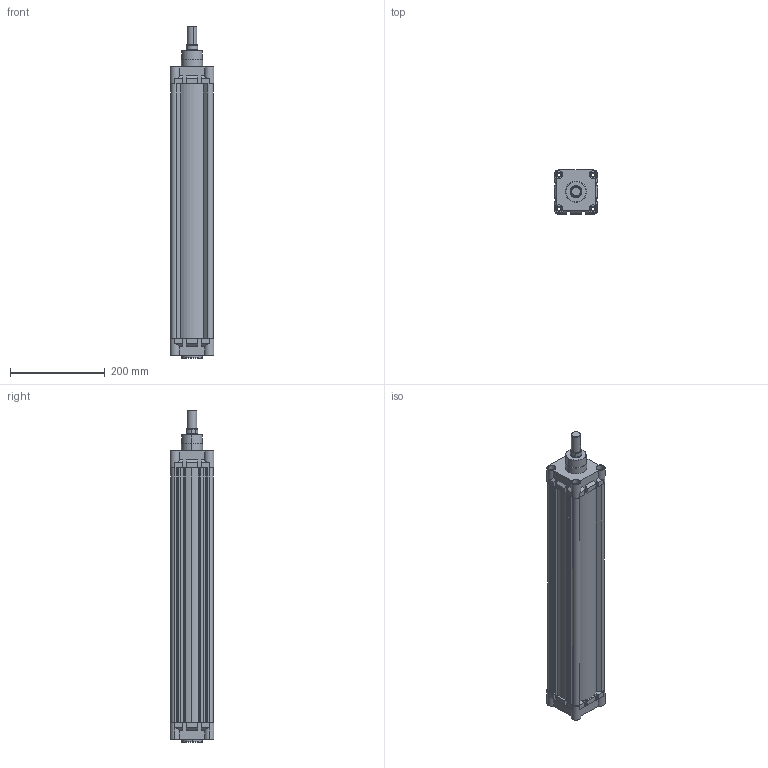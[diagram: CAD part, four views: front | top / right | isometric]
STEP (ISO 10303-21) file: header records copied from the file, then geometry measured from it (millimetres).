
FILE_DESCRIPTION (( 'STEP AP214' ), '1' );
FILE_NAME ('RIC_80_500_WEB.STEP', '2020-09-23T08:02:27', ( '' ), ( '' ), 'SwSTEP 2.0', 'SolidWorks 2018', '' );
FILE_SCHEMA (( 'AUTOMOTIVE_DESIGN' ));
Length unit declared in the file: millimetre
Products named in the file (5): RIC_80_500_WEB; RIC_80_ONKAPAK_WEB; RIC_80_BORU_WEB; RIC_80_ARKA_KAPAK_WEB; RIC_80_MIL_WEB
Assembly tree (4 placements, depth 2):
  RIC_80_500_WEB
    RIC_80_ARKA_KAPAK_WEB
    RIC_80_BORU_WEB
    RIC_80_ONKAPAK_WEB
    RIC_80_MIL_WEB
Bounding box: 93 x 93 x 702.6 mm (x, y, z)
Volume: 1611747.2 mm3; surface area: 529167.5 mm2
Topology: 4 solids, 4 shells, 468 faces, 1241 edges, 819 vertices
Faces by surface type: plane 246, cylinder 161, bspline 44, cone 11, torus 6
Entity records: 19109 total; most frequent: CARTESIAN_POINT 5717, ORIENTED_EDGE 2482, DIRECTION 2302, EDGE_CURVE 1241, VERTEX_POINT 819, LINE 790, VECTOR 790, AXIS2_PLACEMENT_3D 756
